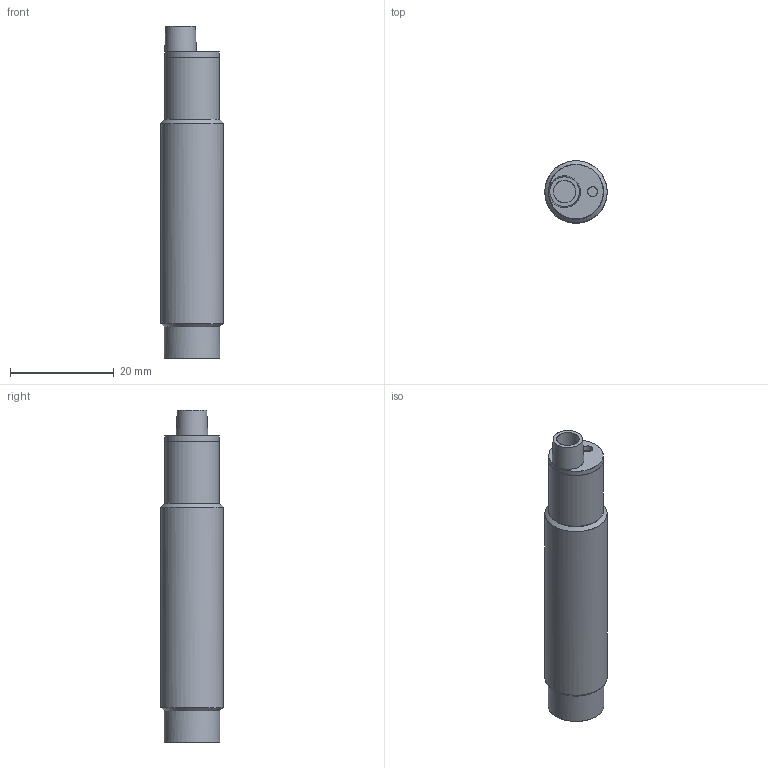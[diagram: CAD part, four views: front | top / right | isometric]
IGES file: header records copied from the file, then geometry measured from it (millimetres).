
Global section: file name: D:\CS\DSD-0283.igs; native system: NX V7.5; preprocessor: SIEMENS PLM Software NX 7.5; date: 20130509.120146; units: millimetre
Bounding box: 12 x 12 x 63.94 mm (x, y, z)
Surface area: 2511.6 mm2 (no closed solid volume)
Topology: 0 solids, 0 shells, 16 faces, 305 edges, 291 vertices
Faces by surface type: bspline 16
